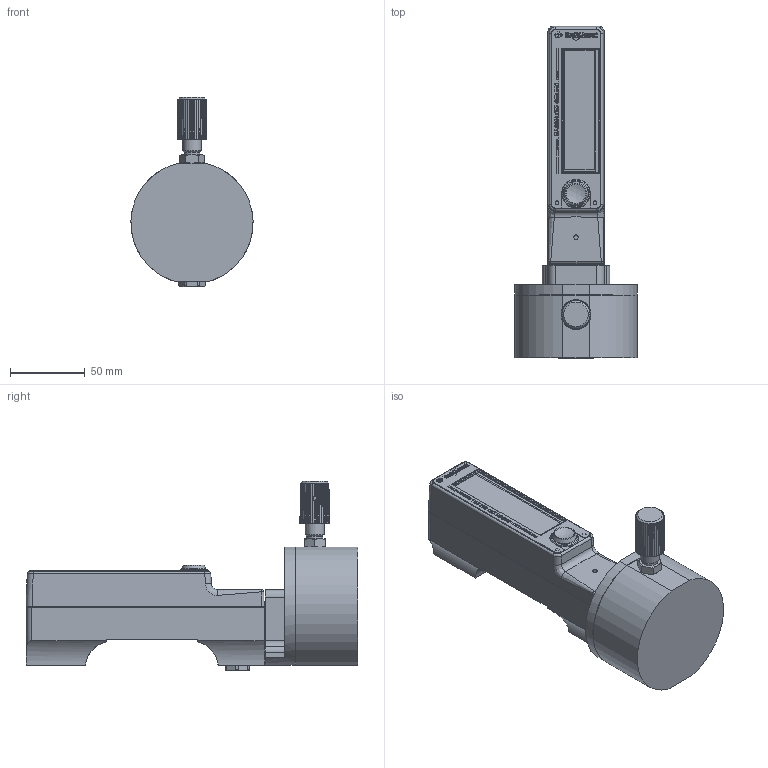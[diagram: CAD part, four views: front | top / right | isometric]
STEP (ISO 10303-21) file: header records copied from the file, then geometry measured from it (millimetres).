
FILE_DESCRIPTION(/* description */ (''),/* implementation_level */ '2;1');
FILE_NAME(/* name */ 'I:\3D\Eng\Marcel\Step-files MASS-VIEW controller\MV-401.stp',/* time_stamp */ '2015-10-09T13:59:55+02:00',/* author */ ('M-Huiskes'),/* organization */ (''),/* preprocessor_version */ 'ST-DEVELOPER v15.6',/* originating_system */ 'Autodesk Inventor 2015',/* authorisation */ '');
FILE_SCHEMA (('CONFIG_CONTROL_DESIGN'));
Length unit declared in the file: millimetre
Products named in the file (1): Part12
Bounding box: 81.49 x 221.39 x 126.09 mm (x, y, z)
Volume: 567727.8 mm3; surface area: 67233.7 mm2
Topology: 1 solids, 14 shells, 1216 faces, 3206 edges, 2118 vertices
Faces by surface type: plane 798, bspline 153, cylinder 147, cone 103, torus 14, sphere 1
Full cylindrical faces by diameter (mm): 2.616 x1, 2.642 x1, 2.8 x1, 3 x1, 4 x3, 4.2 x3, 5.2 x1, 5.5 x11, 6 x10, 6.299 x1, 10.668 x1, 11.3 x1, 11.445 x3, 12.5 x1, 12.7 x1, 13.716 x1, 16 x1, 16.891 x1, 19.2 x2, 19.3 x2, 21.2 x3, 36 x1, 76 x1
Entity records: 38461 total; most frequent: CARTESIAN_POINT 9406, ORIENTED_EDGE 6132, DIRECTION 5025, EDGE_CURVE 3066, VERTEX_POINT 2076, LINE 1987, VECTOR 1987, AXIS2_PLACEMENT_3D 1519
